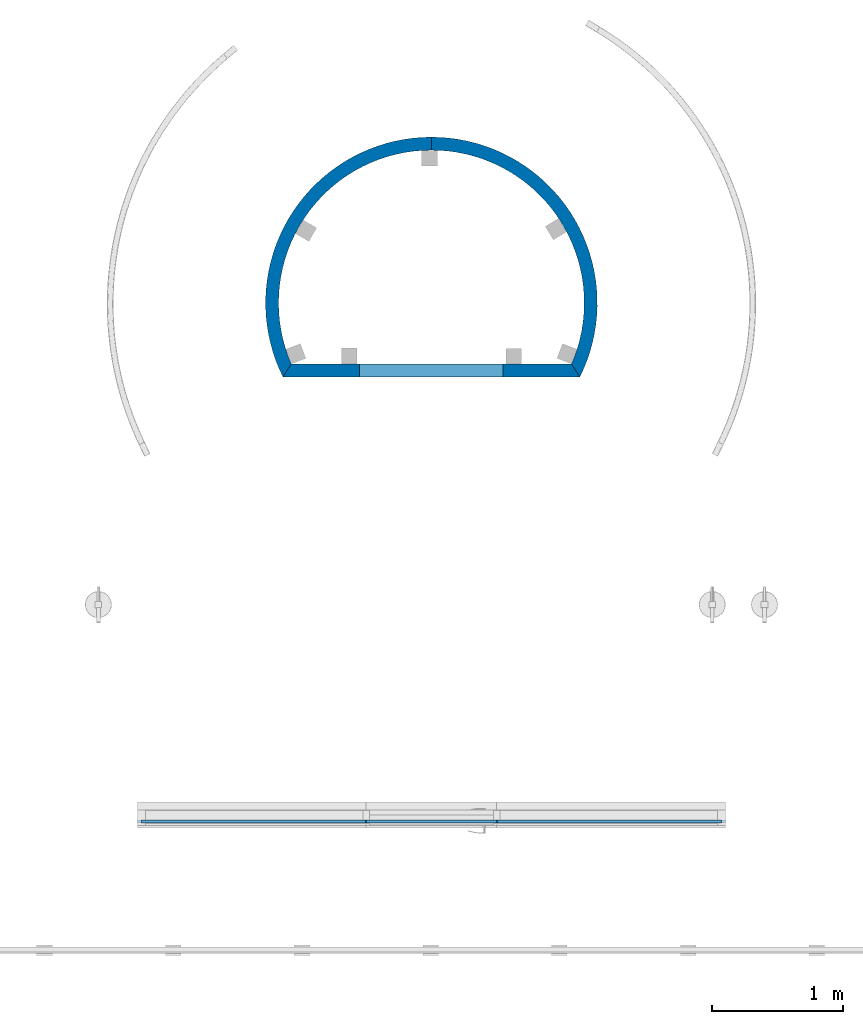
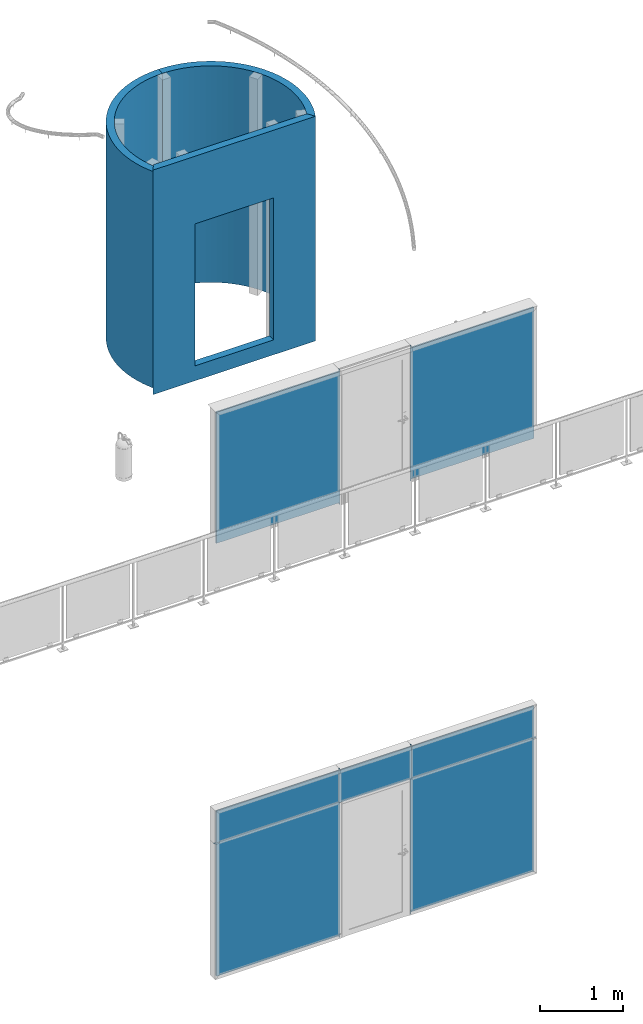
# One storey, part 3 of 7: 7 plates, 3 walls, 1 opening, 2 elements without a shape of their own.
"""IFC4 building model written with IfcOpenShell, lengths in millimetres."""

from ifc_helpers import new_model, entity, si_unit, converted_unit, derived_unit, direction, frame, origin_with_axes, origin_2d_with_axis, place, context, subcontext, project, spatial, line, arc, indexed_curve, rectangle, outline, extrude, material, layer, layer_set, layer_usage, type_object, element, aggregate, save


model = new_model("IFC4")

# Units and contexts
model_context = context("Model", 3, precision=0.01, world=origin_with_axes(), true_north=direction((0.0, 1.0)))
body_context = subcontext(model_context, "Body", "Model", "MODEL_VIEW")
ifc_project = project(units=[si_unit("LENGTHUNIT", "METRE", prefix="MILLI"), si_unit("AREAUNIT", "SQUARE_METRE"), si_unit("VOLUMEUNIT", "CUBIC_METRE"), converted_unit("PLANEANGLEUNIT", "DEGREE", entity("IfcPlaneAngleMeasure", 0.0174532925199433), si_unit("PLANEANGLEUNIT", "RADIAN"), dimensions=[0, 0, 0, 0, 0, 0, 0]), converted_unit("TIMEUNIT", "Year", entity("IfcTimeMeasure", 31557600.0), si_unit("TIMEUNIT", "SECOND"), dimensions=[0, 0, 1, 0, 0, 0, 0]), si_unit("MASSUNIT", "GRAM", prefix="KILO"), si_unit("THERMODYNAMICTEMPERATUREUNIT", "DEGREE_CELSIUS"), si_unit("LUMINOUSINTENSITYUNIT", "LUMEN"), si_unit("ENERGYUNIT", "JOULE", prefix="MEGA"), derived_unit("THERMALCONDUCTANCEUNIT", [(si_unit("POWERUNIT", "WATT"), 1), (si_unit("LENGTHUNIT", "METRE"), -1), (si_unit("THERMODYNAMICTEMPERATUREUNIT", "KELVIN"), -1)]), derived_unit("SPECIFICHEATCAPACITYUNIT", [(si_unit("ENERGYUNIT", "JOULE"), 1), (si_unit("MASSUNIT", "GRAM", prefix="KILO"), -1), (si_unit("THERMODYNAMICTEMPERATUREUNIT", "KELVIN"), -1)]), derived_unit("MASSDENSITYUNIT", [(si_unit("MASSUNIT", "GRAM", prefix="KILO"), 1), (si_unit("VOLUMEUNIT", "CUBIC_METRE"), -1)])], contexts=[model_context])

# Site, building, storey
site_placement = place(None, origin_with_axes())
site = spatial("IfcSite", under=ifc_project, at=site_placement, Name="Exteriér", CompositionType="ELEMENT")
building_placement = place(site_placement, origin_with_axes())
building = spatial("IfcBuilding", under=site, at=building_placement, Name="Univerzitní lezecké centrum", CompositionType="ELEMENT")
storey_placement = place(building_placement, frame((0.0, 0.0, 6400.0), z_axis=(0.0, 0.0, 1.0), x_axis=(1.0, 0.0, 0.0)))
storey = spatial("IfcBuildingStorey", under=building, at=storey_placement, Name="3.NP", CompositionType="ELEMENT", Elevation=6400.0)

# Curtain wall, plates
curtain_wall_type = type_object("IfcCurtainWallType", Name="Typ lehkého obvodového pláště", PredefinedType="NOTDEFINED")
curtain_wall_1_placement = place(storey_placement, frame((1075.010273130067, -270.0000000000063, -6400.000000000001), z_axis=(0.0, 0.0, 1.0), x_axis=(1.0, 0.0, 0.0)))
curtain_wall_1 = element("IfcCurtainWall", 1, at=curtain_wall_1_placement, inside=storey, type_object=curtain_wall_type, Name="LOP06", PredefinedType="NOTDEFINED")
ifc_material = material(Name="Sklo")
plate_type_1 = type_object("IfcPlateType", Name="1750 x 5 x 20", PredefinedType="CURTAIN_PANEL")
plate_1_placement = place(curtain_wall_1_placement, frame((0.0, 0.0, 999.9999675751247), z_axis=(0.0, 0.0, 1.0), x_axis=(-1.0, 0.0, 0.0)))
plate_1 = element("IfcPlate", 2, at=plate_1_placement, type_object=plate_type_1, material=ifc_material, Name="Panely-Okno-019", PredefinedType="CURTAIN_PANEL", context=body_context, shape_type="SweptSolid", body=[
    extrude(outline(indexed_curve([(875.0833090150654, 1005.000017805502), (-875.0833138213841, 1005.000017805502), (-875.0833138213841, 1000.000006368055), (-845.0833049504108, 1000.000006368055), (-845.0833049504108, -969.9999587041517), (875.0833388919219, -969.9999587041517), (875.0833388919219, -999.9999675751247), (880.0833204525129, -999.9999675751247), (880.0833204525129, 1000.000006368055), (875.0833090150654, 1000.000006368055)], segments=[line(1, 2, 3, 4, 5, 6, 7, 8, 9, 10, 1)])), frame((0.0, -10.00000000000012, 0.0), z_axis=(0.0, 1.0, 0.0), x_axis=(-1.0, 0.0, 0.0)), (0.0, 0.0, 1.0), 20.00000000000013),
])
plate_2_placement = place(curtain_wall_1_placement, frame((2750.083313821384, 0.0, 999.9999675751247), z_axis=(0.0, 0.0, 1.0), x_axis=(-1.0, 0.0, 0.0)))
plate_2 = element("IfcPlate", 3, at=plate_2_placement, type_object=plate_type_1, material=ifc_material, Name="Panely-Okno-019", PredefinedType="CURTAIN_PANEL", context=body_context, shape_type="SweptSolid", body=[
    extrude(outline(indexed_curve([(875.0000110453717, 1005.000017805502), (-874.9999885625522, 1005.000017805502), (-874.9999885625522, 1000.000006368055), (-879.9999999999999, 1000.000006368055), (-879.9999999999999, -999.9999675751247), (-874.9999885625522, -999.9999675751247), (-874.9999885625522, -969.9999587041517), (844.9999722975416, -969.9999587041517), (844.9999722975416, 1000.000006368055), (875.0000110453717, 1000.000006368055)], segments=[line(1, 2, 3, 4, 5, 6, 7, 8, 9, 10, 1)])), frame((0.0, -10.00000000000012, 0.0), z_axis=(0.0, 1.0, 0.0), x_axis=(-1.0, 0.0, 0.0)), (0.0, 0.0, 1.0), 20.00000000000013),
])
plate_type_2 = type_object("IfcPlateType", Name="5 x 30 x 20", PredefinedType="CURTAIN_PANEL")
plate_3_placement = place(curtain_wall_1_placement, frame((0.0, 0.0, 2249.99992704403), z_axis=(0.0, 0.0, 1.0), x_axis=(-1.0, 0.0, 0.0)))
plate_3 = element("IfcPlate", 4, at=plate_3_placement, type_object=plate_type_2, material=ifc_material, Name="Panely-Okno-019", PredefinedType="CURTAIN_PANEL", context=body_context, shape_type="SweptSolid", body=[
    extrude(outline(indexed_curve([(880.083313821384, 250.0000042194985), (875.0833141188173, 250.0000042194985), (875.0833141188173, 220.0000060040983), (-845.083315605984, 220.0000060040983), (-845.083315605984, -249.9999921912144), (-875.0833138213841, -249.9999921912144), (-875.0833138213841, -254.9999918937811), (875.0833141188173, -254.9999918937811), (875.0833141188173, -249.9999921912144), (880.083313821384, -249.9999921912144)], segments=[line(1, 2, 3, 4, 5, 6, 7, 8, 9, 10, 1)])), frame((0.0, -10.00000000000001, 0.0), z_axis=(0.0, 1.0, 0.0), x_axis=(-1.0, 0.0, 0.0)), (0.0, 0.0, 1.0), 20.00000000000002),
])
plate_4_placement = place(curtain_wall_1_placement, frame((1375.083313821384, 0.0, 2249.99992704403), z_axis=(0.0, 0.0, 1.0), x_axis=(-1.0, 0.0, 0.0)))
plate_4 = element("IfcPlate", 5, at=plate_4_placement, type_object=plate_type_2, material=ifc_material, Name="Panely-Okno-019", PredefinedType="CURTAIN_PANEL", context=body_context, shape_type="SweptSolid", body=[
    extrude(outline(indexed_curve([(504.9999999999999, 250.0000081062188), (499.999996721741, 250.0000081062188), (499.999996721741, 220.0000185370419), (-499.9999967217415, 220.0000185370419), (-499.9999967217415, 250.0000081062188), (-504.9999999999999, 250.0000081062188), (-504.9999999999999, -249.9999886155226), (-499.9999967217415, -249.9999886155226), (-499.9999967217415, -254.9999918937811), (499.999996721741, -254.9999918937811), (499.999996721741, -249.9999886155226), (504.9999999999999, -249.9999886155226)], segments=[line(1, 2, 3, 4, 5, 6, 7, 8, 9, 10, 11, 12, 1)])), frame((0.0, -10.00000000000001, 0.0), z_axis=(0.0, 1.0, 0.0), x_axis=(-1.0, 0.0, 0.0)), (0.0, 0.0, 1.0), 20.00000000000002),
])

# Curtain wall, plate
curtain_wall_2_placement = place(storey_placement, frame((1074.697880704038, -270.0000000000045, 0.0), z_axis=(0.0, 0.0, 1.0), x_axis=(1.0, 0.0, 0.0)))
curtain_wall_2 = element("IfcCurtainWall", 6, at=curtain_wall_2_placement, inside=storey, type_object=curtain_wall_type, Name="LOP04", PredefinedType="NOTDEFINED")
plate_5_placement = place(curtain_wall_2_placement, frame((0.0, 0.0, 999.999989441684), z_axis=(0.0, 0.0, 1.0), x_axis=(-1.0, 0.0, 0.0)))
plate_5 = element("IfcPlate", 7, at=plate_5_placement, type_object=plate_type_2, material=ifc_material, Name="Panely-Okno-019", PredefinedType="CURTAIN_PANEL", context=body_context, shape_type="SweptSolid", body=[
    extrude(outline(indexed_curve([(880.0833223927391, 999.999989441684), (875.0833224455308, 999.999989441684), (875.0833224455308, 969.9999897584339), (-845.0833141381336, 969.9999897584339), (-845.0833141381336, -969.9999897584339), (875.0833224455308, -969.9999897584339), (875.0833224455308, -999.9999894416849), (880.0833223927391, -999.9999894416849)], segments=[line(1, 2, 3, 4, 5, 6, 7, 8, 1)])), frame((0.0, -10.00000000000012, 0.0), z_axis=(0.0, 1.0, 0.0), x_axis=(-1.0, 0.0, 0.0)), (0.0, 0.0, 1.0), 20.00000000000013),
])

# Plate
plate_type_3 = type_object("IfcPlateType", Name="5 x 500 x 20", PredefinedType="CURTAIN_PANEL")
plate_6_placement = place(curtain_wall_1_placement, frame((2750.083313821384, 0.0, 2249.99992704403), z_axis=(0.0, 0.0, 1.0), x_axis=(-1.0, 0.0, 0.0)))
plate_6 = element("IfcPlate", 8, at=plate_6_placement, type_object=plate_type_3, material=ifc_material, Name="Panely-Okno-019", PredefinedType="CURTAIN_PANEL", context=body_context, shape_type="SweptSolid", body=[
    extrude(outline(indexed_curve([(-875.0000042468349, 249.9999976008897), (-879.9999999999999, 249.9999976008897), (-879.9999999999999, -249.9999961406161), (-875.0000042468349, -249.9999961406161), (-875.0000042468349, -254.9999918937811), (875.0, -254.9999918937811), (875.0, -249.9999961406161), (844.9999993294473, -249.9999961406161), (844.9999993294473, 219.999996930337), (-875.0000042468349, 219.999996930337)], segments=[line(1, 2, 3, 4, 5, 6, 7, 8, 9, 10, 1)])), frame((0.0, -10.00000000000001, 0.0), z_axis=(0.0, 1.0, 0.0), x_axis=(-1.0, 0.0, 0.0)), (0.0, 0.0, 1.0), 20.00000000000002),
])

aggregate(curtain_wall_1, [plate_1, plate_2, plate_3, plate_4, plate_6])

plate_type_4 = type_object("IfcPlateType", Name="5 x 2000 x 20", PredefinedType="CURTAIN_PANEL")
plate_7_placement = place(curtain_wall_2_placement, frame((2750.083313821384, 0.0, 999.999989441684), z_axis=(0.0, 0.0, 1.0), x_axis=(-1.0, 0.0, 0.0)))
plate_7 = element("IfcPlate", 9, at=plate_7_placement, type_object=plate_type_4, material=ifc_material, Name="Panely-Okno-019", PredefinedType="CURTAIN_PANEL", context=body_context, shape_type="SweptSolid", body=[
    extrude(outline(indexed_curve([(-875.0000000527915, 999.999989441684), (-879.9999999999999, 999.999989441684), (-879.9999999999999, -999.9999894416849), (-875.0000000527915, -999.9999894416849), (-875.0000000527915, -969.9999897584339), (845.0000115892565, -969.9999897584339), (845.0000115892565, 969.9999897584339), (-875.0000000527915, 969.9999897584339)], segments=[line(1, 2, 3, 4, 5, 6, 7, 8, 1)])), frame((0.0, -10.00000000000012, 0.0), z_axis=(0.0, 1.0, 0.0), x_axis=(-1.0, 0.0, 0.0)), (0.0, 0.0, 1.0), 20.00000000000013),
])

aggregate(curtain_wall_2, [plate_5, plate_7])

# Walls
ifc_layer = layer(ifc_material, 100.0, ventilated="UNKNOWN", Name="Sklo")
ifc_layer_set = layer_set([ifc_layer], Name="Sklo 100")
ifc_layer_usage_1 = layer_usage(ifc_layer_set, "AXIS2", "NEGATIVE", 100.0)
wall_type = type_object("IfcWallType", Name="Sklo 100", PredefinedType="NOTDEFINED")
wall_1_placement = place(storey_placement, frame((2449.851648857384, 4970.000000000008, -120.000000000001), z_axis=(0.0, 0.0, 1.0), x_axis=(-1.0, 0.0, 0.0)))
element("IfcWall", 10, at=wall_1_placement, inside=storey, type_object=wall_type, material=ifc_layer_usage_1, Name="Z058", PredefinedType="NOTDEFINED", context=body_context, shape_type="SweptSolid", body=[
    extrude(outline(indexed_curve([(0.0, 0.0), (1079.899584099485, 601.6311734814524), (1136.647587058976, 1836.508837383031), (1072.97148468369, 1736.510656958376), (978.4471034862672, 628.4851789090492), (0.0, 99.99999999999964)], segments=[arc(1, 2, 3), line(3, 4), arc(4, 5, 6), line(6, 1)])), origin_with_axes(), (0.0, 0.0, 1.0), 3200.000000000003),
])
ifc_layer_usage_2 = layer_usage(ifc_layer_set, "AXIS2", "NEGATIVE", 100.0)
wall_2_placement = place(storey_placement, frame((3586.46685680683, 3133.426201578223, -120.000000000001), z_axis=(0.0, 0.0, 1.0), x_axis=(0.4461211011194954, 0.8949726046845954, 0.0)))
element("IfcWall", 11, at=wall_2_placement, inside=storey, type_object=wall_type, material=ifc_layer_usage_2, Name="Z059", PredefinedType="NOTDEFINED", context=body_context, shape_type="SweptSolid", body=[
    extrude(outline(indexed_curve([(0.0, 0.0), (1079.918683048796, 601.662033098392), (1136.615207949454, 1836.573798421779), (1047.117947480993, 1791.961688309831), (1010.627243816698, 680.4810655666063), (61.09418564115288, 101.5961740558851)], segments=[arc(1, 2, 3), line(3, 4), arc(4, 5, 6), line(6, 1)])), origin_with_axes(), (0.0, 0.0, 1.0), 3200.000000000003),
])

# Wall, opening
ifc_layer_usage_3 = layer_usage(ifc_layer_set, "AXIS2", "NEGATIVE", 100.0)
wall_3_placement = place(storey_placement, frame((1313.204061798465, 3133.491162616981, -220.0000000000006), z_axis=(0.0, 0.0, 1.0), x_axis=(0.9999999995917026, -2.857612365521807e-05, 0.0)))
wall_3 = element("IfcWall", 12, at=wall_3_placement, inside=storey, type_object=wall_type, material=ifc_layer_usage_3, Name="Z053", PredefinedType="NOTDEFINED", context=body_context, shape_type="SweptSolid", body=[
    extrude(outline(indexed_curve([(0.0, 0.0), (2273.262795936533, 0.0), (2209.589551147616, 99.99999999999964), (63.67324478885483, 100.0000000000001)], segments=[line(1, 2, 3, 4, 1)])), origin_with_axes(), (0.0, 0.0, 1.0), 3320.0),
])
opening_placement = place(wall_3_placement, frame((1136.628541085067, 0.0, 220.0000000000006), z_axis=(0.0, 0.0, 1.0), x_axis=(1.0, 0.0, 0.0)))
element("IfcOpeningElement", 13, at=opening_placement, cuts=wall_3, context=body_context, shape_type="SweptSolid", body=[
    extrude(rectangle(XDim=1097.999999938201, YDim=2100.0, at=origin_2d_with_axis()), frame((0.0, -100.0000000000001, 1050.0), z_axis=(0.0, 1.0, 0.0), x_axis=(-1.0, 0.0, 0.0)), (0.0, 0.0, 1.0), 300.0000000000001),
])

save(model, "model.ifc")
